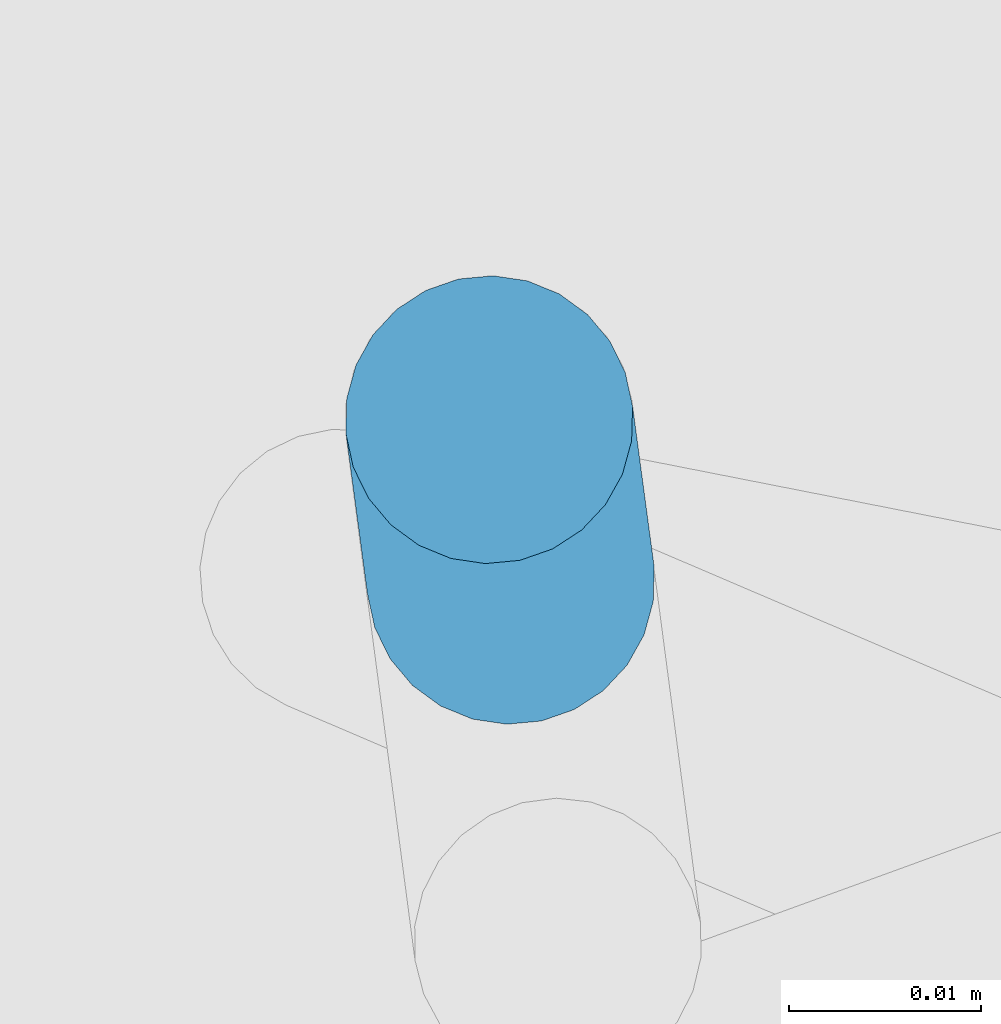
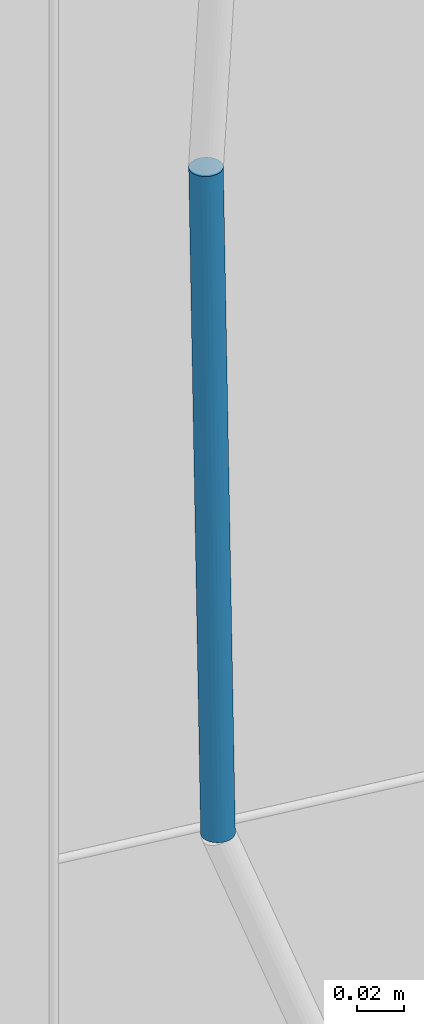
# One storey, part 114 of 142: 1 member, 1 element without a shape of its own.
"""IFC4 building model written with IfcOpenShell, lengths in metres."""

from ifc_helpers import new_model, si_unit, direction, frame, origin_with_axes, place, context, subcontext, project, spatial, circle, extrude, material, material_profile, profile_set, profile_usage, type_object, element, aggregate, save


model = new_model("IFC4")

# Units and contexts
model_context = context("Model", 3, precision=1e-05, world=origin_with_axes(), true_north=direction((0.0, 1.0)))
body_context = subcontext(model_context, "Body", "Model", "MODEL_VIEW")
ifc_project = project(units=[si_unit("VOLUMEUNIT", "CUBIC_METRE"), si_unit("LENGTHUNIT", "METRE"), si_unit("AREAUNIT", "SQUARE_METRE")], contexts=[model_context])

# Site, building, storey
site_placement = place(None, origin_with_axes())
site = spatial("IfcSite", under=ifc_project, at=site_placement, Name="Lares · Rua das Mercês · artigo 4771")
building_placement = place(site_placement, frame((12.0, 10.2, 13.9), z_axis=(0.0, 0.0, 1.0), x_axis=(0.989015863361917, -0.147809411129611, 0.0)))
building = spatial("IfcBuilding", under=site, at=building_placement, Name="Casa Sobreposta")
storey_placement = place(building_placement, origin_with_axes())
storey = spatial("IfcBuildingStorey", under=building, at=storey_placement, Name="00 · Habitação e estacionamento", Elevation=13.9)

# Assembly, member
assembly_placement = place(storey_placement, origin_with_axes())
assembly = element("IfcElementAssembly", 1, at=assembly_placement, inside=storey, Name="Fachada sul e pátio · estrutura e trepadeiras", ObjectType="LIVING_SHADE_TRELLIS", PredefinedType="USERDEFINED")
ifc_material = material(Name="Ramos de trepadeiras", Category="wood")
ifc_material_profile = material_profile(ifc_material, circle(Radius=0.0075))
ifc_profile_set = profile_set([ifc_material_profile], Name="D0.015")
ifc_profile_usage = profile_usage(ifc_profile_set)
member_type = type_object("IfcMemberType", Name="D0.015 / vine_wood", PredefinedType="NOTDEFINED", material=ifc_profile_set)
member_placement = place(assembly_placement, frame((4.56069122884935, -1.64835584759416, 2.07350700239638), z_axis=(-0.00681256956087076, 0.0235166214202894, 0.999700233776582), x_axis=(0.999976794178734, 0.000160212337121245, 0.00681068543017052)))
member = element("IfcMember", 2, at=member_placement, type_object=member_type, material=ifc_profile_usage, Name="Trepadeiras · ramo", context=body_context, shape_type="SweptSolid", body=[
    extrude(circle(Radius=0.0075), origin_with_axes(), (0.0, 0.0, 1.0), 0.344804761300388),
])
aggregate(assembly, [member])

save(model, "model.ifc")
